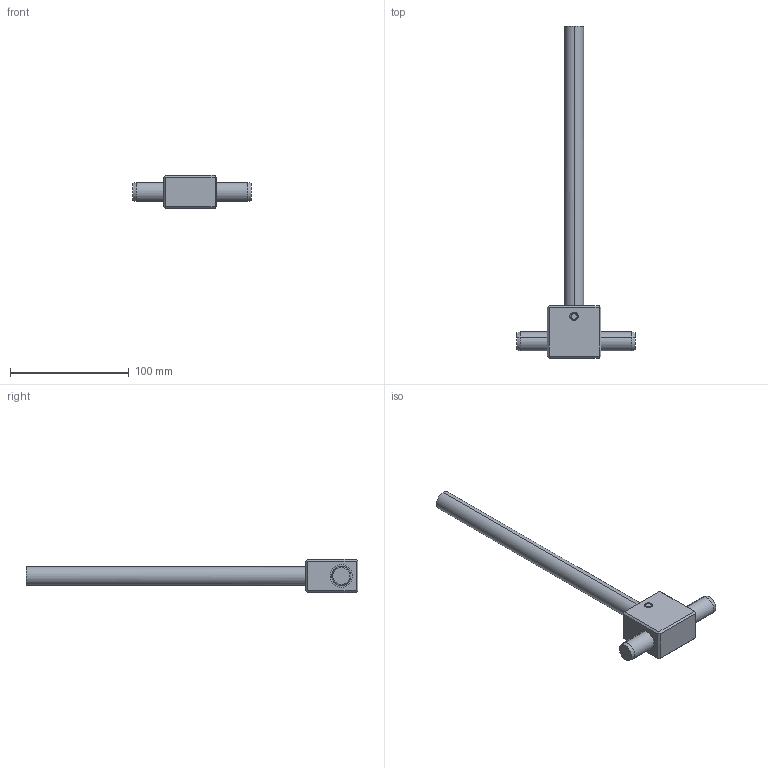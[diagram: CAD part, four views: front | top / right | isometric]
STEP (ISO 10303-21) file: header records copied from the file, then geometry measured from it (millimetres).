
FILE_DESCRIPTION (( 'STEP AP214' ), '1' );
FILE_NAME ('SD4528GR.STEP', '2013-06-18T09:54:52', ( '' ), ( '' ), 'SwSTEP 2.0', 'SolidWorks 2011', '' );
FILE_SCHEMA (( 'AUTOMOTIVE_DESIGN' ));
Length unit declared in the file: millimetre
Products named in the file (14): grafito; 8SD4528GR_SD.4528GR; 3CASQSD4528GRF_Casquillo 3220; Varilla SD45; SD4528GR; Parallel Pin Unhardened_DIN_Parallel Pin ISO 2338 - 16 h6 x 100 - St; pasador 7x28; 9SD4528GR_SD.4528GR; 3casqSD45gr
Assembly tree (13 placements, depth 4):
  SD4528GR
    Parallel Pin Unhardened_DIN_Parallel Pin ISO 2338 - 16 h6 x 100 - St
    9SD4528GR_SD.4528GR
      3casqSD45gr
        grafito
        grafito
        grafito
        3CASQSD4528GRF_Casquillo 3220
        grafito
        grafito
        grafito
      8SD4528GR_SD.4528GR
    Varilla SD45
    pasador 7x28
Bounding box: 100 x 279 x 28 mm (x, y, z)
Volume: 109086.1 mm3; surface area: 37312.1 mm2
Topology: 17 solids, 17 shells, 158 faces, 345 edges, 222 vertices
Faces by surface type: cylinder 103, plane 39, cone 12, torus 4
Entity records: 7647 total; most frequent: CARTESIAN_POINT 3639, ORIENTED_EDGE 690, DIRECTION 675, EDGE_CURVE 345, AXIS2_PLACEMENT_3D 258, VERTEX_POINT 222, EDGE_LOOP 193, LINE 159
